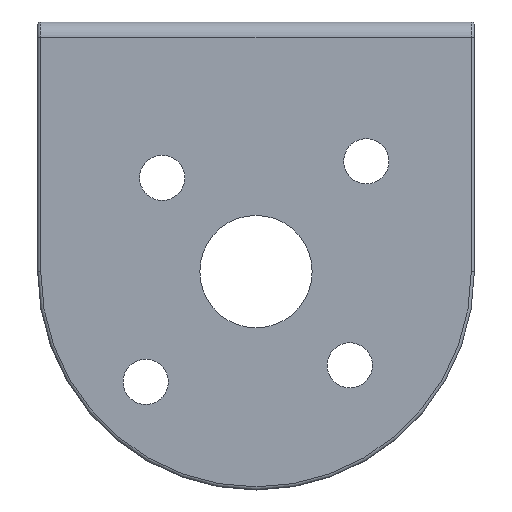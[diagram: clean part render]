
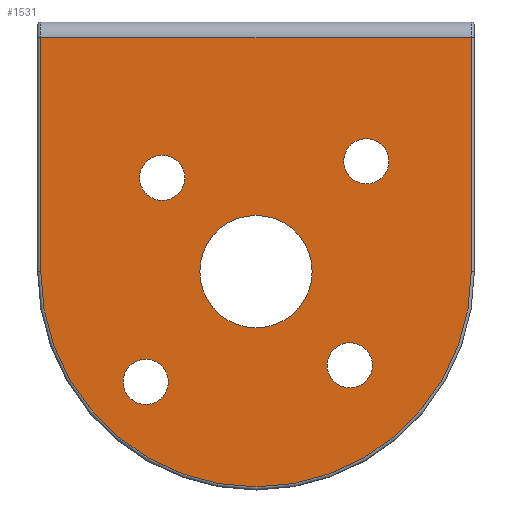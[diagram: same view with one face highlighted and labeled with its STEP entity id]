
A CAD part, front view. The second image highlights one B-rep face of the part: STEP entity #1531.
In plain terms, the highlighted planar face has unit normal (0, -1, 0).
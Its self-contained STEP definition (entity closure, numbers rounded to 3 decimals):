
#13 = CIRCLE ( 'NONE', #1375, 1.45 ) ;
#33 = CIRCLE ( 'NONE', #883, 13.8 ) ;
#36 = LINE ( 'NONE', #318, #388 ) ;
#47 = CARTESIAN_POINT ( 'NONE',  ( 7.99, 0., -9.99 ) ) ;
#79 = DIRECTION ( 'NONE',  ( 0., 1., 0. ) ) ;
#89 = CIRCLE ( 'NONE', #1028, 1.45 ) ;
#101 = VERTEX_POINT ( 'NONE', #1656 ) ;
#146 = EDGE_CURVE ( 'NONE', #299, #148, #33, .T. ) ;
#147 = CARTESIAN_POINT ( 'NONE',  ( 6.929, 0., -23.071 ) ) ;
#148 = VERTEX_POINT ( 'NONE', #1666 ) ;
#158 = CARTESIAN_POINT ( 'NONE',  ( 7.99, 0., -9.99 ) ) ;
#164 = EDGE_LOOP ( 'NONE', ( #1208, #1000 ) ) ;
#166 = EDGE_CURVE ( 'NONE', #283, #778, #1103, .T. ) ;
#170 = DIRECTION ( 'NONE',  ( 0., 1., 0. ) ) ;
#183 = ORIENTED_EDGE ( 'NONE', *, *, #535, .T. ) ;
#189 = EDGE_CURVE ( 'NONE', #1008, #299, #36, .T. ) ;
#206 = CARTESIAN_POINT ( 'NONE',  ( 28., 0., -1. ) ) ;
#230 = VERTEX_POINT ( 'NONE', #1307 ) ;
#245 = VERTEX_POINT ( 'NONE', #802 ) ;
#250 = LINE ( 'NONE', #362, #645 ) ;
#259 = ORIENTED_EDGE ( 'NONE', *, *, #1105, .T. ) ;
#262 = DIRECTION ( 'NONE',  ( 0., 0., 1. ) ) ;
#271 = DIRECTION ( 'NONE',  ( 0., 1., 0. ) ) ;
#279 = DIRECTION ( 'NONE',  ( 0., -1., 0. ) ) ;
#283 = VERTEX_POINT ( 'NONE', #453 ) ;
#299 = VERTEX_POINT ( 'NONE', #1354 ) ;
#318 = CARTESIAN_POINT ( 'NONE',  ( 0.2, 0., -16. ) ) ;
#357 = ORIENTED_EDGE ( 'NONE', *, *, #166, .T. ) ;
#362 = CARTESIAN_POINT ( 'NONE',  ( 27.8, 0., -30. ) ) ;
#369 = VERTEX_POINT ( 'NONE', #1228 ) ;
#373 = DIRECTION ( 'NONE',  ( 0., 1., 0. ) ) ;
#380 = DIRECTION ( 'NONE',  ( 0., 0., 1. ) ) ;
#388 = VECTOR ( 'NONE', #571, 1000. ) ;
#402 = DIRECTION ( 'NONE',  ( 0., 0., 1. ) ) ;
#405 = FACE_BOUND ( 'NONE', #539, .T. ) ;
#413 = CARTESIAN_POINT ( 'NONE',  ( 14., 0., -12.4 ) ) ;
#424 = DIRECTION ( 'NONE',  ( 0., 0., 1. ) ) ;
#452 = VERTEX_POINT ( 'NONE', #1381 ) ;
#453 = CARTESIAN_POINT ( 'NONE',  ( 7.99, 0., -8.54 ) ) ;
#477 = DIRECTION ( 'NONE',  ( 0., 0., 1. ) ) ;
#495 = EDGE_LOOP ( 'NONE', ( #783, #1025, #1259, #1163 ) ) ;
#519 = CARTESIAN_POINT ( 'NONE',  ( 20.01, 0., -22.01 ) ) ;
#521 = CIRCLE ( 'NONE', #758, 3.6 ) ;
#533 = EDGE_CURVE ( 'NONE', #1252, #452, #784, .T. ) ;
#535 = EDGE_CURVE ( 'NONE', #369, #1442, #521, .T. ) ;
#539 = EDGE_LOOP ( 'NONE', ( #1532, #183 ) ) ;
#551 = ORIENTED_EDGE ( 'NONE', *, *, #1365, .T. ) ;
#554 = CARTESIAN_POINT ( 'NONE',  ( 6.929, 0., -23.071 ) ) ;
#568 = CARTESIAN_POINT ( 'NONE',  ( 20.01, 0., -23.46 ) ) ;
#571 = DIRECTION ( 'NONE',  ( 0., 0., -1. ) ) ;
#613 = AXIS2_PLACEMENT_3D ( 'NONE', #678, #912, #1557 ) ;
#624 = EDGE_CURVE ( 'NONE', #230, #752, #1429, .T. ) ;
#642 = DIRECTION ( 'NONE',  ( 0., 0., 1. ) ) ;
#645 = VECTOR ( 'NONE', #863, 1000. ) ;
#654 = CARTESIAN_POINT ( 'NONE',  ( 21.071, 0., -8.929 ) ) ;
#657 = DIRECTION ( 'NONE',  ( 0., 0., 1. ) ) ;
#661 = FACE_BOUND ( 'NONE', #971, .T. ) ;
#678 = CARTESIAN_POINT ( 'NONE',  ( 14., 0., -16. ) ) ;
#696 = AXIS2_PLACEMENT_3D ( 'NONE', #1148, #373, #380 ) ;
#735 = DIRECTION ( 'NONE',  ( 0., 0., 1. ) ) ;
#751 = CARTESIAN_POINT ( 'NONE',  ( 14., 0., -16. ) ) ;
#752 = VERTEX_POINT ( 'NONE', #1496 ) ;
#758 = AXIS2_PLACEMENT_3D ( 'NONE', #1032, #1543, #402 ) ;
#777 = DIRECTION ( 'NONE',  ( 0., 1., 0. ) ) ;
#778 = VERTEX_POINT ( 'NONE', #1106 ) ;
#783 = ORIENTED_EDGE ( 'NONE', *, *, #146, .T. ) ;
#784 = CIRCLE ( 'NONE', #1031, 1.45 ) ;
#802 = CARTESIAN_POINT ( 'NONE',  ( 21.071, 0., -10.379 ) ) ;
#812 = CIRCLE ( 'NONE', #1206, 1.45 ) ;
#815 = DIRECTION ( 'NONE',  ( 0., 1., 0. ) ) ;
#824 = EDGE_CURVE ( 'NONE', #101, #1008, #960, .T. ) ;
#844 = ORIENTED_EDGE ( 'NONE', *, *, #533, .T. ) ;
#860 = ORIENTED_EDGE ( 'NONE', *, *, #1435, .T. ) ;
#863 = DIRECTION ( 'NONE',  ( 0., 0., 1. ) ) ;
#883 = AXIS2_PLACEMENT_3D ( 'NONE', #751, #279, #1009 ) ;
#904 = FACE_OUTER_BOUND ( 'NONE', #495, .T. ) ;
#912 = DIRECTION ( 'NONE',  ( 0., 1., 0. ) ) ;
#960 = LINE ( 'NONE', #206, #1514 ) ;
#963 = CARTESIAN_POINT ( 'NONE',  ( 21.071, 0., -7.479 ) ) ;
#971 = EDGE_LOOP ( 'NONE', ( #357, #259 ) ) ;
#973 = EDGE_LOOP ( 'NONE', ( #860, #551 ) ) ;
#1000 = ORIENTED_EDGE ( 'NONE', *, *, #1424, .T. ) ;
#1001 = AXIS2_PLACEMENT_3D ( 'NONE', #554, #170, #1066 ) ;
#1008 = VERTEX_POINT ( 'NONE', #1586 ) ;
#1009 = DIRECTION ( 'NONE',  ( 0., 0., 1. ) ) ;
#1017 = AXIS2_PLACEMENT_3D ( 'NONE', #1043, #271, #735 ) ;
#1025 = ORIENTED_EDGE ( 'NONE', *, *, #1301, .T. ) ;
#1028 = AXIS2_PLACEMENT_3D ( 'NONE', #654, #777, #424 ) ;
#1031 = AXIS2_PLACEMENT_3D ( 'NONE', #519, #1280, #642 ) ;
#1032 = CARTESIAN_POINT ( 'NONE',  ( 14., 0., -16. ) ) ;
#1036 = FACE_BOUND ( 'NONE', #164, .T. ) ;
#1043 = CARTESIAN_POINT ( 'NONE',  ( 28., 0., -30. ) ) ;
#1066 = DIRECTION ( 'NONE',  ( 0., 0., 1. ) ) ;
#1103 = CIRCLE ( 'NONE', #1534, 1.45 ) ;
#1105 = EDGE_CURVE ( 'NONE', #778, #283, #13, .T. ) ;
#1106 = CARTESIAN_POINT ( 'NONE',  ( 7.99, 0., -11.44 ) ) ;
#1148 = CARTESIAN_POINT ( 'NONE',  ( 21.071, 0., -8.929 ) ) ;
#1163 = ORIENTED_EDGE ( 'NONE', *, *, #189, .T. ) ;
#1206 = AXIS2_PLACEMENT_3D ( 'NONE', #147, #1410, #262 ) ;
#1208 = ORIENTED_EDGE ( 'NONE', *, *, #624, .T. ) ;
#1228 = CARTESIAN_POINT ( 'NONE',  ( 14., 0., -19.6 ) ) ;
#1252 = VERTEX_POINT ( 'NONE', #568 ) ;
#1259 = ORIENTED_EDGE ( 'NONE', *, *, #824, .T. ) ;
#1280 = DIRECTION ( 'NONE',  ( 0., 1., 0. ) ) ;
#1282 = FACE_BOUND ( 'NONE', #1320, .T. ) ;
#1301 = EDGE_CURVE ( 'NONE', #148, #101, #250, .T. ) ;
#1307 = CARTESIAN_POINT ( 'NONE',  ( 6.929, 0., -21.621 ) ) ;
#1313 = DIRECTION ( 'NONE',  ( 0., 1., 0. ) ) ;
#1320 = EDGE_LOOP ( 'NONE', ( #1421, #844 ) ) ;
#1354 = CARTESIAN_POINT ( 'NONE',  ( 0.2, 0., -16. ) ) ;
#1365 = EDGE_CURVE ( 'NONE', #245, #1603, #1591, .T. ) ;
#1375 = AXIS2_PLACEMENT_3D ( 'NONE', #158, #1313, #657 ) ;
#1381 = CARTESIAN_POINT ( 'NONE',  ( 20.01, 0., -20.56 ) ) ;
#1410 = DIRECTION ( 'NONE',  ( 0., 1., 0. ) ) ;
#1415 = PLANE ( 'NONE',  #1017 ) ;
#1421 = ORIENTED_EDGE ( 'NONE', *, *, #1602, .T. ) ;
#1424 = EDGE_CURVE ( 'NONE', #752, #230, #812, .T. ) ;
#1429 = CIRCLE ( 'NONE', #1001, 1.45 ) ;
#1435 = EDGE_CURVE ( 'NONE', #1603, #245, #89, .T. ) ;
#1442 = VERTEX_POINT ( 'NONE', #413 ) ;
#1465 = DIRECTION ( 'NONE',  ( 0., 0., 1. ) ) ;
#1470 = DIRECTION ( 'NONE',  ( -1., 0., 0. ) ) ;
#1492 = EDGE_CURVE ( 'NONE', #1442, #369, #1611, .T. ) ;
#1496 = CARTESIAN_POINT ( 'NONE',  ( 6.929, 0., -24.521 ) ) ;
#1511 = CARTESIAN_POINT ( 'NONE',  ( 20.01, 0., -22.01 ) ) ;
#1514 = VECTOR ( 'NONE', #1470, 1000. ) ;
#1531 = ADVANCED_FACE ( 'NONE', ( #661, #1036, #1282, #1548, #405, #904 ), #1415, .F. ) ;
#1532 = ORIENTED_EDGE ( 'NONE', *, *, #1492, .T. ) ;
#1534 = AXIS2_PLACEMENT_3D ( 'NONE', #47, #815, #1465 ) ;
#1543 = DIRECTION ( 'NONE',  ( 0., 1., 0. ) ) ;
#1548 = FACE_BOUND ( 'NONE', #973, .T. ) ;
#1555 = CIRCLE ( 'NONE', #1641, 1.45 ) ;
#1557 = DIRECTION ( 'NONE',  ( 0., 0., 1. ) ) ;
#1586 = CARTESIAN_POINT ( 'NONE',  ( 0.2, 0., -1. ) ) ;
#1591 = CIRCLE ( 'NONE', #696, 1.45 ) ;
#1602 = EDGE_CURVE ( 'NONE', #452, #1252, #1555, .T. ) ;
#1603 = VERTEX_POINT ( 'NONE', #963 ) ;
#1611 = CIRCLE ( 'NONE', #613, 3.6 ) ;
#1641 = AXIS2_PLACEMENT_3D ( 'NONE', #1511, #79, #477 ) ;
#1656 = CARTESIAN_POINT ( 'NONE',  ( 27.8, 0., -1. ) ) ;
#1666 = CARTESIAN_POINT ( 'NONE',  ( 27.8, 0., -16. ) ) ;
